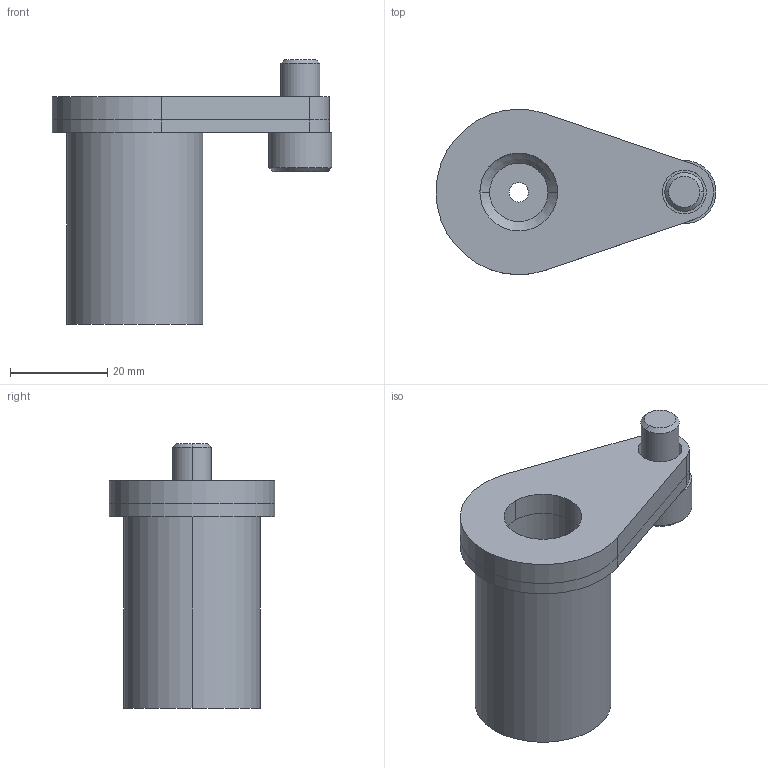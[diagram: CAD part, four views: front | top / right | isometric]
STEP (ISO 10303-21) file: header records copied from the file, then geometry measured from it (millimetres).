
FILE_DESCRIPTION(/* description */ (''),/* implementation_level */ '2;1');
FILE_NAME(/* name */ '3d_pqsp16-42_02945_r00.stp',/* time_stamp */ '2011-01-10T14:11:42+09:00',/* author */ ('MISUMI'),/* organization */ (''),/* preprocessor_version */ 'ST-DEVELOPER v11',/* originating_system */ 'UGS - NX 5.0',/* authorisation */ '');
FILE_SCHEMA (('CONFIG_CONTROL_DESIGN'));
Length unit declared in the file: millimetre
Products named in the file (1): 3d_pqsp16-42_02945_r00
Bounding box: 57.5 x 34 x 54.4 mm (x, y, z)
Volume: 27084.6 mm3; surface area: 12970.8 mm2
Topology: 4 solids, 4 shells, 51 faces, 120 edges, 80 vertices
Faces by surface type: plane 21, cylinder 20, cone 10
Entity records: 1594 total; most frequent: DIRECTION 284, CARTESIAN_POINT 252, ORIENTED_EDGE 240, EDGE_CURVE 120, AXIS2_PLACEMENT_3D 112, VERTEX_POINT 80, EDGE_LOOP 64, LINE 60
